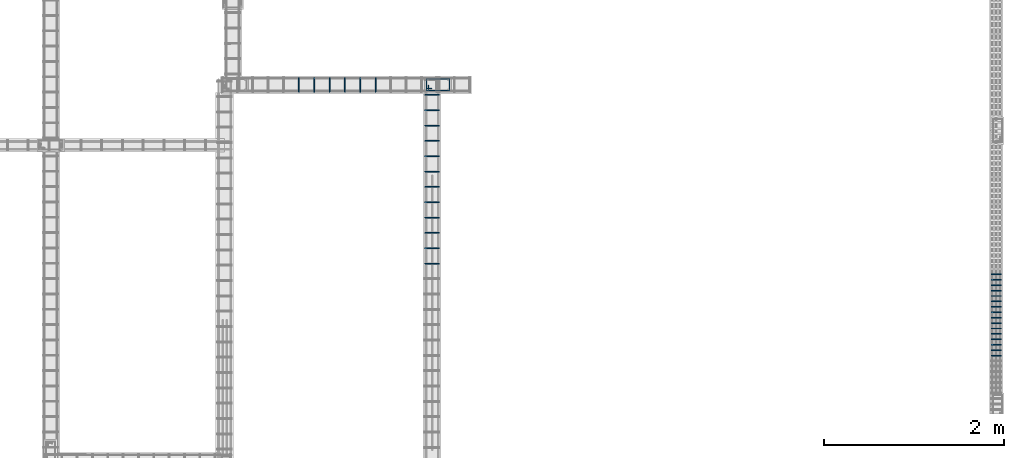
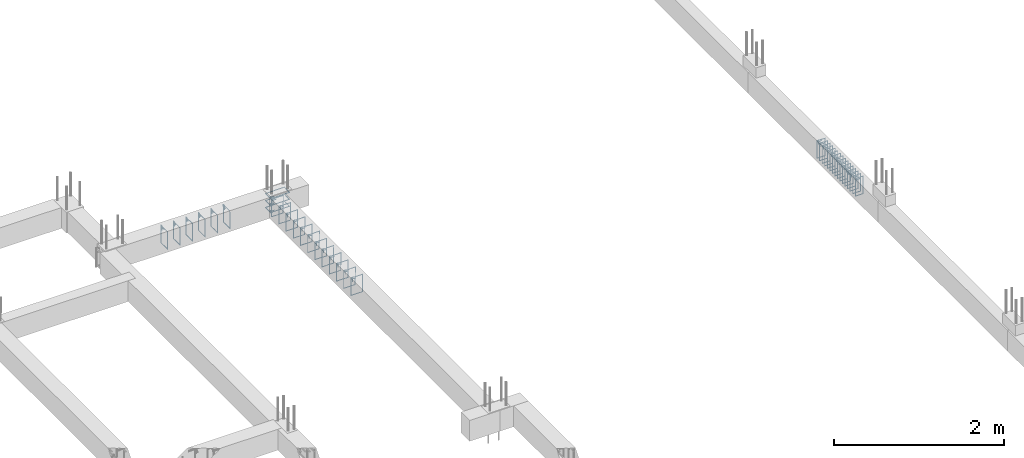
# One storey, part 101 of 150: 37 reinforcing bars.
"""IFC4 building model written with IfcOpenShell, lengths in centimetres."""

from ifc_helpers import new_model, entity, si_unit, derived_unit, frame, origin_with_axes, place, context, project, spatial, source, transform, mapped, element, save


model = new_model("IFC4")

# Units and contexts
model_context = context("Model", 3, precision=1e-05, world=origin_with_axes(), identifier="Body")
ifc_project = project(units=[si_unit("LENGTHUNIT", "METRE", prefix="CENTI"), si_unit("VOLUMEUNIT", "CUBIC_METRE"), si_unit("AREAUNIT", "SQUARE_METRE"), si_unit("POWERUNIT", "WATT"), si_unit("LUMINOUSFLUXUNIT", "LUMEN"), si_unit("ELECTRICCURRENTUNIT", "AMPERE"), si_unit("PRESSUREUNIT", "PASCAL", prefix="KILO"), si_unit("MASSUNIT", "GRAM", prefix="KILO"), si_unit("PLANEANGLEUNIT", "RADIAN"), derived_unit("VOLUMETRICFLOWRATEUNIT", [(si_unit("LENGTHUNIT", "METRE"), 3), (si_unit("TIMEUNIT", "SECOND"), -1)])], contexts=[model_context])

# Site, building, storey
site_placement = place(None, frame((-4000.0, 0.0, 0.0), z_axis=(0.0, 0.0, 1.0), x_axis=(1.0, 0.0, 0.0)))
site = spatial("IfcSite", under=ifc_project, at=site_placement, Name="PADRÃO")
building_placement = place(site_placement, frame((0.0, 0.0, -14.0)))
building = spatial("IfcBuilding", under=site, at=building_placement, Name="CRECHE PRÉ-ESCOLA TIPO 2")
placement = place(building_placement, origin_with_axes())
storey_placement = place(placement, frame((0.0, 0.0, 30.0), z_axis=(0.0, 0.0, 1.0), x_axis=(1.0, 0.0, 0.0)))
storey = spatial("IfcBuildingStorey", under=building, at=storey_placement, Name="VIGA BALDRAME", CompositionType="ELEMENT", Elevation=16.0)

# Reinforcing bars
shared_shape_1 = source(origin_with_axes(), model_context, "Body", "AdvancedSweptSolid", [
    entity("IfcSweptDiskSolid", entity("IfcCompositeCurve", [entity("IfcCompositeCurveSegment", "CONTINUOUS", True, entity("IfcPolyline", [entity("IfcCartesianPoint", [4.25, 21.75, 0.0]), entity("IfcCartesianPoint", [4.25, 27.75, 0.0])])), entity("IfcCompositeCurveSegment", "CONTINUOUS", True, entity("IfcPolyline", [entity("IfcCartesianPoint", [4.25, 27.75, 0.0]), entity("IfcCartesianPoint", [2.25, 27.75, 0.0])])), entity("IfcCompositeCurveSegment", "CONTINUOUS", True, entity("IfcPolyline", [entity("IfcCartesianPoint", [2.25, 27.75, 0.0]), entity("IfcCartesianPoint", [2.25, 2.25, 0.0])])), entity("IfcCompositeCurveSegment", "CONTINUOUS", True, entity("IfcPolyline", [entity("IfcCartesianPoint", [2.25, 2.25, 0.0]), entity("IfcCartesianPoint", [14.75, 2.25, 0.0])])), entity("IfcCompositeCurveSegment", "CONTINUOUS", True, entity("IfcPolyline", [entity("IfcCartesianPoint", [14.75, 2.25, 0.0]), entity("IfcCartesianPoint", [14.75, 27.75, -0.5])])), entity("IfcCompositeCurveSegment", "CONTINUOUS", True, entity("IfcPolyline", [entity("IfcCartesianPoint", [14.75, 27.75, -0.5]), entity("IfcCartesianPoint", [2.25, 27.75, -0.5])])), entity("IfcCompositeCurveSegment", "CONTINUOUS", True, entity("IfcPolyline", [entity("IfcCartesianPoint", [2.25, 27.75, -0.5]), entity("IfcCartesianPoint", [2.25, 25.75, -0.5])])), entity("IfcCompositeCurveSegment", "CONTINUOUS", True, entity("IfcPolyline", [entity("IfcCartesianPoint", [2.25, 25.75, -0.5]), entity("IfcCartesianPoint", [8.25, 25.75, -0.5])]))], False), 0.25),
])
for number, where, z_axis, x_axis, name in (
    (1, (3387.5, 1806.52, -15.0), (0.0, 0.0, 1.0), (0.0, 1.0, 0.0), "P97 - Estribo"),
    (2, (3387.5, 1806.52, -25.0), (0.0, 0.0, 1.0), (0.0, 1.0, 0.0), "P97 - Estribo"),
    (3, (3387.5, 1806.52, -5.0), (0.0, 0.0, 1.0), (0.0, 1.0, 0.0), "P97 - Estribo"),
):
    element("IfcReinforcingBar", number, at=place(storey_placement, frame(where, z_axis=z_axis, x_axis=x_axis)), inside=storey, Name=name, BarLength=0.0, CrossSectionArea=1.9634954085e-05, NominalDiameter=0.5, PredefinedType="MAIN", context=model_context, shape_type="MappedRepresentation", body=[
        mapped(shared_shape_1, transform((0.0, 0.0, 0.0), scale=1.0)),
    ])
shared_shape_2 = source(origin_with_axes(), model_context, "Body", "AdvancedSweptSolid", [
    entity("IfcSweptDiskSolid", entity("IfcCompositeCurve", [entity("IfcCompositeCurveSegment", "CONTINUOUS", True, entity("IfcPolyline", [entity("IfcCartesianPoint", [2.0, -6.0, 0.0]), entity("IfcCartesianPoint", [2.0, 0.0, 0.0])])), entity("IfcCompositeCurveSegment", "CONTINUOUS", True, entity("IfcPolyline", [entity("IfcCartesianPoint", [2.0, 0.0, 0.0]), entity("IfcCartesianPoint", [0.0, 0.0, 0.0])])), entity("IfcCompositeCurveSegment", "CONTINUOUS", True, entity("IfcPolyline", [entity("IfcCartesianPoint", [0.0, 0.0, 0.0]), entity("IfcCartesianPoint", [0.0, -25.5, 0.0])])), entity("IfcCompositeCurveSegment", "CONTINUOUS", True, entity("IfcPolyline", [entity("IfcCartesianPoint", [0.0, -25.5, 0.0]), entity("IfcCartesianPoint", [15.5, -25.5, 0.0])])), entity("IfcCompositeCurveSegment", "CONTINUOUS", True, entity("IfcPolyline", [entity("IfcCartesianPoint", [15.5, -25.5, 0.0]), entity("IfcCartesianPoint", [15.5, 0.0, 0.5])])), entity("IfcCompositeCurveSegment", "CONTINUOUS", True, entity("IfcPolyline", [entity("IfcCartesianPoint", [15.5, 0.0, 0.5]), entity("IfcCartesianPoint", [0.0, 0.0, 0.5])])), entity("IfcCompositeCurveSegment", "CONTINUOUS", True, entity("IfcPolyline", [entity("IfcCartesianPoint", [0.0, 0.0, 0.5]), entity("IfcCartesianPoint", [0.0, -2.0, 0.5])])), entity("IfcCompositeCurveSegment", "CONTINUOUS", True, entity("IfcPolyline", [entity("IfcCartesianPoint", [0.0, -2.0, 0.5]), entity("IfcCartesianPoint", [6.0, -2.0, 0.5])]))], False), 0.25),
])
for number, where, z_axis, x_axis, name in (
    (4, (3252.5, 1822.77, -2.25), (-1.0, 0.0, 0.0), (0.0, -1.0, 0.0), "V131 - Estribo"),
    (5, (3269.5, 1822.77, -2.25), (-1.0, 0.0, 0.0), (0.0, -1.0, 0.0), "V131 - Estribo"),
    (6, (3286.5, 1822.77, -2.25), (-1.0, 0.0, 0.0), (0.0, -1.0, 0.0), "V131 - Estribo"),
    (7, (3303.5, 1822.77, -2.25), (-1.0, 0.0, 0.0), (0.0, -1.0, 0.0), "V131 - Estribo"),
    (8, (3218.5, 1822.77, -2.25), (-1.0, 0.0, 0.0), (0.0, -1.0, 0.0), "V131 - Estribo"),
    (9, (3235.5, 1822.77, -2.25), (-1.0, 0.0, 0.0), (0.0, -1.0, 0.0), "V131 - Estribo"),
):
    element("IfcReinforcingBar", number, at=place(storey_placement, frame(where, z_axis=z_axis, x_axis=x_axis)), inside=storey, Name=name, BarLength=0.0, CrossSectionArea=1.9634954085e-05, NominalDiameter=0.5, PredefinedType="MAIN", context=model_context, shape_type="MappedRepresentation", body=[
        mapped(shared_shape_2, transform((0.0, 0.0, 0.0), scale=1.0)),
    ])
shared_shape_3 = source(origin_with_axes(), model_context, "Body", "AdvancedSweptSolid", [
    entity("IfcSweptDiskSolid", entity("IfcCompositeCurve", [entity("IfcCompositeCurveSegment", "CONTINUOUS", True, entity("IfcPolyline", [entity("IfcCartesianPoint", [2.0, -6.0, 0.0]), entity("IfcCartesianPoint", [2.0, 0.0, 0.0])])), entity("IfcCompositeCurveSegment", "CONTINUOUS", True, entity("IfcPolyline", [entity("IfcCartesianPoint", [2.0, 0.0, 0.0]), entity("IfcCartesianPoint", [0.0, 0.0, 0.0])])), entity("IfcCompositeCurveSegment", "CONTINUOUS", True, entity("IfcPolyline", [entity("IfcCartesianPoint", [0.0, 0.0, 0.0]), entity("IfcCartesianPoint", [0.0, -25.5, 0.0])])), entity("IfcCompositeCurveSegment", "CONTINUOUS", True, entity("IfcPolyline", [entity("IfcCartesianPoint", [0.0, -25.5, 0.0]), entity("IfcCartesianPoint", [15.5, -25.5, 0.0])])), entity("IfcCompositeCurveSegment", "CONTINUOUS", True, entity("IfcPolyline", [entity("IfcCartesianPoint", [15.5, -25.5, 0.0]), entity("IfcCartesianPoint", [15.5, 0.0, 0.5])])), entity("IfcCompositeCurveSegment", "CONTINUOUS", True, entity("IfcPolyline", [entity("IfcCartesianPoint", [15.5, 0.0, 0.5]), entity("IfcCartesianPoint", [0.0, 0.0, 0.5])])), entity("IfcCompositeCurveSegment", "CONTINUOUS", True, entity("IfcPolyline", [entity("IfcCartesianPoint", [0.0, 0.0, 0.5]), entity("IfcCartesianPoint", [0.0, -2.0, 0.5])])), entity("IfcCompositeCurveSegment", "CONTINUOUS", True, entity("IfcPolyline", [entity("IfcCartesianPoint", [0.0, -2.0, 0.5]), entity("IfcCartesianPoint", [6.0, -2.0, 0.5])]))], False), 0.25),
])
for number, where, z_axis, x_axis, name in (
    (10, (3358.25, 1770.055, -2.25), (0.0, -1.0, 0.0), (1.0, 0.0, 0.0), "V226 - Estribo"),
    (11, (3358.25, 1804.055, -2.25), (0.0, -1.0, 0.0), (1.0, 0.0, 0.0), "V226 - Estribo"),
    (12, (3358.25, 1787.055, -2.25), (0.0, -1.0, 0.0), (1.0, 0.0, 0.0), "V226 - Estribo"),
    (13, (3358.25, 1634.055, -2.25), (0.0, -1.0, 0.0), (1.0, 0.0, 0.0), "V226 - Estribo"),
    (14, (3358.25, 1753.055, -2.25), (0.0, -1.0, 0.0), (1.0, 0.0, 0.0), "V226 - Estribo"),
    (15, (3358.25, 1685.055, -2.25), (0.0, -1.0, 0.0), (1.0, 0.0, 0.0), "V226 - Estribo"),
    (16, (3358.25, 1736.055, -2.25), (0.0, -1.0, 0.0), (1.0, 0.0, 0.0), "V226 - Estribo"),
    (17, (3358.25, 1719.055, -2.25), (0.0, -1.0, 0.0), (1.0, 0.0, 0.0), "V226 - Estribo"),
    (18, (3358.25, 1702.055, -2.25), (0.0, -1.0, 0.0), (1.0, 0.0, 0.0), "V226 - Estribo"),
    (19, (3358.25, 1668.055, -2.25), (0.0, -1.0, 0.0), (1.0, 0.0, 0.0), "V226 - Estribo"),
    (20, (3358.25, 1651.055, -2.25), (0.0, -1.0, 0.0), (1.0, 0.0, 0.0), "V226 - Estribo"),
    (21, (3358.25, 1617.055, -2.25), (0.0, -1.0, 0.0), (1.0, 0.0, 0.0), "V226 - Estribo"),
):
    element("IfcReinforcingBar", number, at=place(storey_placement, frame(where, z_axis=z_axis, x_axis=x_axis)), inside=storey, Name=name, BarLength=0.0, CrossSectionArea=1.9634954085e-05, NominalDiameter=0.5, PredefinedType="MAIN", context=model_context, shape_type="MappedRepresentation", body=[
        mapped(shared_shape_3, transform((0.0, 0.0, 0.0), scale=1.0)),
    ])
shared_shape_4 = source(origin_with_axes(), model_context, "Body", "AdvancedSweptSolid", [
    entity("IfcSweptDiskSolid", entity("IfcCompositeCurve", [entity("IfcCompositeCurveSegment", "CONTINUOUS", True, entity("IfcPolyline", [entity("IfcCartesianPoint", [2.0, -6.0, 0.0]), entity("IfcCartesianPoint", [2.0, 0.0, 0.0])])), entity("IfcCompositeCurveSegment", "CONTINUOUS", True, entity("IfcPolyline", [entity("IfcCartesianPoint", [2.0, 0.0, 0.0]), entity("IfcCartesianPoint", [0.0, 0.0, 0.0])])), entity("IfcCompositeCurveSegment", "CONTINUOUS", True, entity("IfcPolyline", [entity("IfcCartesianPoint", [0.0, 0.0, 0.0]), entity("IfcCartesianPoint", [0.0, -25.5, 0.0])])), entity("IfcCompositeCurveSegment", "CONTINUOUS", True, entity("IfcPolyline", [entity("IfcCartesianPoint", [0.0, -25.5, 0.0]), entity("IfcCartesianPoint", [10.5, -25.5, 0.0])])), entity("IfcCompositeCurveSegment", "CONTINUOUS", True, entity("IfcPolyline", [entity("IfcCartesianPoint", [10.5, -25.5, 0.0]), entity("IfcCartesianPoint", [10.5, 0.0, 0.5])])), entity("IfcCompositeCurveSegment", "CONTINUOUS", True, entity("IfcPolyline", [entity("IfcCartesianPoint", [10.5, 0.0, 0.5]), entity("IfcCartesianPoint", [0.0, 0.0, 0.5])])), entity("IfcCompositeCurveSegment", "CONTINUOUS", True, entity("IfcPolyline", [entity("IfcCartesianPoint", [0.0, 0.0, 0.5]), entity("IfcCartesianPoint", [0.0, -2.0, 0.5])])), entity("IfcCompositeCurveSegment", "CONTINUOUS", True, entity("IfcPolyline", [entity("IfcCartesianPoint", [0.0, -2.0, 0.5]), entity("IfcCartesianPoint", [6.0, -2.0, 0.5])]))], False), 0.25),
])
for number, where, z_axis, x_axis, name in (
    (22, (3986.25, 1515.11, -17.25), (0.0, -1.0, 0.0), (1.0, 0.0, 0.0), "V230 - Estribo"),
    (23, (3986.25, 1521.11, -17.25), (0.0, -1.0, 0.0), (1.0, 0.0, 0.0), "V230 - Estribo"),
    (24, (3986.25, 1527.11, -17.25), (0.0, -1.0, 0.0), (1.0, 0.0, 0.0), "V230 - Estribo"),
    (25, (3986.25, 1533.11, -17.25), (0.0, -1.0, 0.0), (1.0, 0.0, 0.0), "V230 - Estribo"),
    (26, (3986.25, 1539.11, -17.25), (0.0, -1.0, 0.0), (1.0, 0.0, 0.0), "V230 - Estribo"),
    (27, (3986.25, 1545.11, -17.25), (0.0, -1.0, 0.0), (1.0, 0.0, 0.0), "V230 - Estribo"),
    (28, (3986.25, 1551.11, -17.25), (0.0, -1.0, 0.0), (1.0, 0.0, 0.0), "V230 - Estribo"),
    (29, (3986.25, 1557.11, -17.25), (0.0, -1.0, 0.0), (1.0, 0.0, 0.0), "V230 - Estribo"),
    (30, (3986.25, 1563.11, -17.25), (0.0, -1.0, 0.0), (1.0, 0.0, 0.0), "V230 - Estribo"),
    (31, (3986.25, 1569.11, -17.25), (0.0, -1.0, 0.0), (1.0, 0.0, 0.0), "V230 - Estribo"),
    (32, (3986.25, 1575.11, -17.25), (0.0, -1.0, 0.0), (1.0, 0.0, 0.0), "V230 - Estribo"),
    (33, (3986.25, 1581.11, -17.25), (0.0, -1.0, 0.0), (1.0, 0.0, 0.0), "V230 - Estribo"),
    (34, (3986.25, 1587.11, -17.25), (0.0, -1.0, 0.0), (1.0, 0.0, 0.0), "V230 - Estribo"),
    (35, (3986.25, 1593.11, -17.25), (0.0, -1.0, 0.0), (1.0, 0.0, 0.0), "V230 - Estribo"),
    (36, (3986.25, 1599.11, -17.25), (0.0, -1.0, 0.0), (1.0, 0.0, 0.0), "V230 - Estribo"),
    (37, (3986.25, 1605.11, -17.25), (0.0, -1.0, 0.0), (1.0, 0.0, 0.0), "V230 - Estribo"),
):
    element("IfcReinforcingBar", number, at=place(storey_placement, frame(where, z_axis=z_axis, x_axis=x_axis)), inside=storey, Name=name, BarLength=0.0, CrossSectionArea=1.9634954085e-05, NominalDiameter=0.5, PredefinedType="MAIN", context=model_context, shape_type="MappedRepresentation", body=[
        mapped(shared_shape_4, transform((0.0, 0.0, 0.0), scale=1.0)),
    ])

save(model, "model.ifc")
